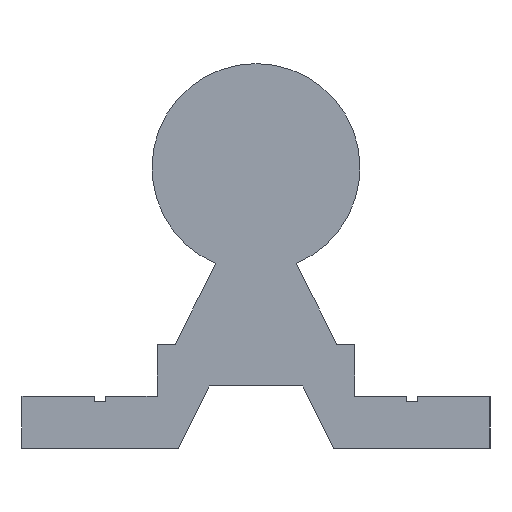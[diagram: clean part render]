
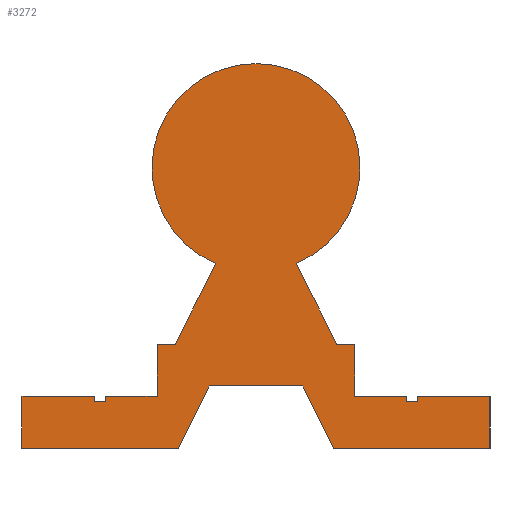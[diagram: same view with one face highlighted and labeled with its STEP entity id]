
A CAD part, left-side view. The second image highlights one B-rep face of the part: STEP entity #3272.
In plain terms, the highlighted planar face has unit normal (-1, 0, 0).
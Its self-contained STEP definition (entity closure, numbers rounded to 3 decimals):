
#81=LINE('',#4671,#353);
#91=LINE('',#4712,#363);
#122=LINE('',#4937,#394);
#288=LINE('',#5549,#560);
#292=LINE('',#5557,#564);
#295=LINE('',#5563,#567);
#298=LINE('',#5569,#570);
#301=LINE('',#5575,#573);
#305=LINE('',#5582,#577);
#308=LINE('',#5587,#580);
#310=LINE('',#5591,#582);
#311=LINE('',#5593,#583);
#312=LINE('',#5596,#584);
#315=LINE('',#5602,#587);
#318=LINE('',#5608,#590);
#321=LINE('',#5615,#593);
#325=LINE('',#5623,#597);
#328=LINE('',#5628,#600);
#331=LINE('',#5633,#603);
#333=LINE('',#5637,#605);
#334=LINE('',#5639,#606);
#335=LINE('',#5642,#607);
#338=LINE('',#5647,#610);
#353=VECTOR('',#3686,10.);
#363=VECTOR('',#3708,10.);
#394=VECTOR('',#3873,10.);
#560=VECTOR('',#4505,10.);
#564=VECTOR('',#4511,10.);
#567=VECTOR('',#4516,10.);
#570=VECTOR('',#4521,10.);
#573=VECTOR('',#4526,10.);
#577=VECTOR('',#4532,10.);
#580=VECTOR('',#4537,10.);
#582=VECTOR('',#4541,10.);
#583=VECTOR('',#4544,10.);
#584=VECTOR('',#4547,10.);
#587=VECTOR('',#4552,10.);
#590=VECTOR('',#4557,10.);
#593=VECTOR('',#4562,10.);
#597=VECTOR('',#4568,10.);
#600=VECTOR('',#4573,10.);
#603=VECTOR('',#4578,10.);
#605=VECTOR('',#4582,10.);
#606=VECTOR('',#4585,10.);
#607=VECTOR('',#4588,10.);
#610=VECTOR('',#4593,10.);
#714=PLANE('',#3638);
#860=FACE_OUTER_BOUND('',#1032,.T.);
#1032=EDGE_LOOP('',(#3087,#3088,#3089,#3090,#3091,#3092,#3093,#3094,#3095,
#3096,#3097,#3098,#3099,#3100,#3101,#3102,#3103,#3104,#3105,#3106,#3107,
#3108,#3109,#3110));
#1231=CIRCLE('',#3635,10.);
#1293=VERTEX_POINT('',#4668);
#1294=VERTEX_POINT('',#4670);
#1306=VERTEX_POINT('',#4709);
#1307=VERTEX_POINT('',#4711);
#1376=VERTEX_POINT('',#4934);
#1377=VERTEX_POINT('',#4936);
#1568=VERTEX_POINT('',#5547);
#1569=VERTEX_POINT('',#5548);
#1572=VERTEX_POINT('',#5556);
#1574=VERTEX_POINT('',#5562);
#1576=VERTEX_POINT('',#5568);
#1578=VERTEX_POINT('',#5574);
#1580=VERTEX_POINT('',#5580);
#1581=VERTEX_POINT('',#5585);
#1582=VERTEX_POINT('',#5589);
#1583=VERTEX_POINT('',#5595);
#1585=VERTEX_POINT('',#5601);
#1587=VERTEX_POINT('',#5607);
#1589=VERTEX_POINT('',#5613);
#1590=VERTEX_POINT('',#5614);
#1593=VERTEX_POINT('',#5622);
#1595=VERTEX_POINT('',#5631);
#1596=VERTEX_POINT('',#5635);
#1597=VERTEX_POINT('',#5641);
#1628=EDGE_CURVE('',#1293,#1294,#81,.T.);
#1644=EDGE_CURVE('',#1306,#1307,#91,.T.);
#1740=EDGE_CURVE('',#1376,#1377,#122,.T.);
#2049=EDGE_CURVE('',#1568,#1569,#288,.T.);
#2053=EDGE_CURVE('',#1572,#1568,#292,.T.);
#2056=EDGE_CURVE('',#1574,#1572,#295,.T.);
#2059=EDGE_CURVE('',#1576,#1574,#298,.T.);
#2062=EDGE_CURVE('',#1578,#1576,#301,.T.);
#2066=EDGE_CURVE('',#1580,#1578,#305,.T.);
#2069=EDGE_CURVE('',#1581,#1580,#308,.T.);
#2071=EDGE_CURVE('',#1582,#1581,#310,.T.);
#2072=EDGE_CURVE('',#1377,#1582,#311,.T.);
#2073=EDGE_CURVE('',#1583,#1376,#312,.T.);
#2076=EDGE_CURVE('',#1585,#1583,#315,.T.);
#2079=EDGE_CURVE('',#1587,#1585,#318,.T.);
#2082=EDGE_CURVE('',#1589,#1590,#321,.T.);
#2086=EDGE_CURVE('',#1593,#1589,#325,.T.);
#2089=EDGE_CURVE('',#1294,#1593,#328,.T.);
#2092=EDGE_CURVE('',#1595,#1293,#331,.T.);
#2094=EDGE_CURVE('',#1596,#1595,#333,.T.);
#2095=EDGE_CURVE('',#1307,#1596,#334,.T.);
#2096=EDGE_CURVE('',#1597,#1306,#335,.T.);
#2099=EDGE_CURVE('',#1569,#1597,#338,.T.);
#2101=EDGE_CURVE('',#1590,#1587,#1231,.T.);
#3087=ORIENTED_EDGE('',*,*,#2101,.F.);
#3088=ORIENTED_EDGE('',*,*,#2082,.F.);
#3089=ORIENTED_EDGE('',*,*,#2086,.F.);
#3090=ORIENTED_EDGE('',*,*,#2089,.F.);
#3091=ORIENTED_EDGE('',*,*,#1628,.F.);
#3092=ORIENTED_EDGE('',*,*,#2092,.F.);
#3093=ORIENTED_EDGE('',*,*,#2094,.F.);
#3094=ORIENTED_EDGE('',*,*,#2095,.F.);
#3095=ORIENTED_EDGE('',*,*,#1644,.F.);
#3096=ORIENTED_EDGE('',*,*,#2096,.F.);
#3097=ORIENTED_EDGE('',*,*,#2099,.F.);
#3098=ORIENTED_EDGE('',*,*,#2049,.F.);
#3099=ORIENTED_EDGE('',*,*,#2053,.F.);
#3100=ORIENTED_EDGE('',*,*,#2056,.F.);
#3101=ORIENTED_EDGE('',*,*,#2059,.F.);
#3102=ORIENTED_EDGE('',*,*,#2062,.F.);
#3103=ORIENTED_EDGE('',*,*,#2066,.F.);
#3104=ORIENTED_EDGE('',*,*,#2069,.F.);
#3105=ORIENTED_EDGE('',*,*,#2071,.F.);
#3106=ORIENTED_EDGE('',*,*,#2072,.F.);
#3107=ORIENTED_EDGE('',*,*,#1740,.F.);
#3108=ORIENTED_EDGE('',*,*,#2073,.F.);
#3109=ORIENTED_EDGE('',*,*,#2076,.F.);
#3110=ORIENTED_EDGE('',*,*,#2079,.F.);
#3272=ADVANCED_FACE('',(#860),#714,.F.);
#3635=AXIS2_PLACEMENT_3D('',#5650,#4597,#4598);
#3638=AXIS2_PLACEMENT_3D('',#5653,#4603,#4604);
#3686=DIRECTION('',(0.,-1.,0.));
#3708=DIRECTION('',(0.,-1.,0.));
#3873=DIRECTION('',(0.,-1.,0.));
#4505=DIRECTION('',(0.,0.447,-0.894));
#4511=DIRECTION('',(0.,1.,0.));
#4516=DIRECTION('',(0.,0.447,0.894));
#4521=DIRECTION('',(0.,1.,0.));
#4526=DIRECTION('',(0.,0.,-1.));
#4532=DIRECTION('',(0.,-1.,0.));
#4537=DIRECTION('',(0.,0.,1.));
#4541=DIRECTION('',(0.,-1.,0.));
#4544=DIRECTION('',(0.,0.,-1.));
#4547=DIRECTION('',(0.,0.,-1.));
#4552=DIRECTION('',(0.,-1.,0.));
#4557=DIRECTION('',(0.,-0.447,-0.894));
#4562=DIRECTION('',(0.,-0.447,0.894));
#4568=DIRECTION('',(0.,-1.,0.));
#4573=DIRECTION('',(0.,0.,1.));
#4578=DIRECTION('',(0.,0.,1.));
#4582=DIRECTION('',(0.,-1.,0.));
#4585=DIRECTION('',(0.,0.,-1.));
#4588=DIRECTION('',(0.,0.,1.));
#4593=DIRECTION('',(0.,1.,0.));
#4597=DIRECTION('center_axis',(1.,0.,0.));
#4598=DIRECTION('ref_axis',(0.,1.,0.));
#4603=DIRECTION('center_axis',(1.,0.,0.));
#4604=DIRECTION('ref_axis',(0.,0.,-1.));
#4668=CARTESIAN_POINT('',(0.,14.5,5.));
#4670=CARTESIAN_POINT('',(0.,9.5,5.));
#4671=CARTESIAN_POINT('',(0.,14.5,5.));
#4709=CARTESIAN_POINT('',(0.,22.5,5.));
#4711=CARTESIAN_POINT('',(0.,15.5,5.));
#4712=CARTESIAN_POINT('',(0.,22.5,5.));
#4934=CARTESIAN_POINT('',(0.,-9.5,5.));
#4936=CARTESIAN_POINT('',(0.,-14.5,5.));
#4937=CARTESIAN_POINT('',(0.,-9.5,5.));
#5547=CARTESIAN_POINT('',(0.,4.5,6.));
#5548=CARTESIAN_POINT('',(0.,7.5,0.));
#5549=CARTESIAN_POINT('',(0.,4.5,6.));
#5556=CARTESIAN_POINT('',(0.,-4.5,6.));
#5557=CARTESIAN_POINT('',(0.,-4.5,6.));
#5562=CARTESIAN_POINT('',(0.,-7.5,0.));
#5563=CARTESIAN_POINT('',(0.,-7.5,0.));
#5568=CARTESIAN_POINT('',(0.,-22.5,0.));
#5569=CARTESIAN_POINT('',(0.,-22.5,0.));
#5574=CARTESIAN_POINT('',(0.,-22.5,5.));
#5575=CARTESIAN_POINT('',(0.,-22.5,5.));
#5580=CARTESIAN_POINT('',(0.,-15.5,5.));
#5582=CARTESIAN_POINT('',(0.,-15.5,5.));
#5585=CARTESIAN_POINT('',(0.,-15.5,4.5));
#5587=CARTESIAN_POINT('',(0.,-15.5,4.5));
#5589=CARTESIAN_POINT('',(0.,-14.5,4.5));
#5591=CARTESIAN_POINT('',(0.,-14.5,4.5));
#5593=CARTESIAN_POINT('',(0.,-14.5,5.));
#5595=CARTESIAN_POINT('',(0.,-9.5,10.));
#5596=CARTESIAN_POINT('',(0.,-9.5,10.));
#5601=CARTESIAN_POINT('',(0.,-7.766,10.));
#5602=CARTESIAN_POINT('',(0.,-7.766,10.));
#5607=CARTESIAN_POINT('',(0.,-3.875,17.781));
#5608=CARTESIAN_POINT('',(0.,-3.875,17.781));
#5613=CARTESIAN_POINT('',(0.,7.766,10.));
#5614=CARTESIAN_POINT('',(0.,3.875,17.781));
#5615=CARTESIAN_POINT('',(0.,7.766,10.));
#5622=CARTESIAN_POINT('',(0.,9.5,10.));
#5623=CARTESIAN_POINT('',(0.,9.5,10.));
#5628=CARTESIAN_POINT('',(0.,9.5,5.));
#5631=CARTESIAN_POINT('',(0.,14.5,4.5));
#5633=CARTESIAN_POINT('',(0.,14.5,4.5));
#5635=CARTESIAN_POINT('',(0.,15.5,4.5));
#5637=CARTESIAN_POINT('',(0.,15.5,4.5));
#5639=CARTESIAN_POINT('',(0.,15.5,5.));
#5641=CARTESIAN_POINT('',(0.,22.5,0.));
#5642=CARTESIAN_POINT('',(0.,22.5,0.));
#5647=CARTESIAN_POINT('',(0.,7.5,0.));
#5650=CARTESIAN_POINT('Origin',(0.,0.,27.));
#5653=CARTESIAN_POINT('Origin',(0.,0.,27.));
